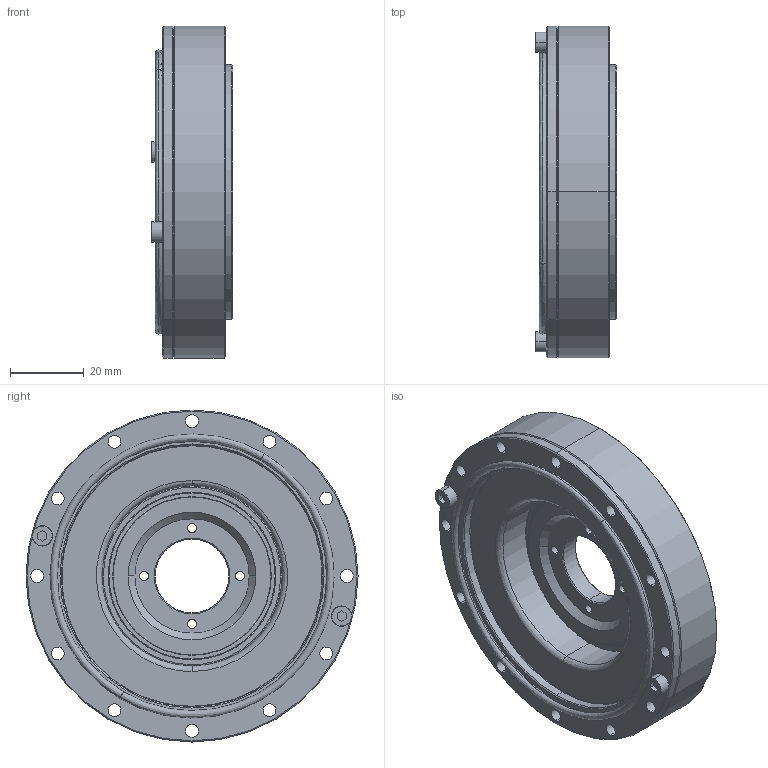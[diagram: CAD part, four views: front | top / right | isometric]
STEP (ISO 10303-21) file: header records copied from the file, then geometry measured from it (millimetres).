
FILE_DESCRIPTION (( 'STEP AP214' ), '1' );
FILE_NAME ('SHD-20-XXX-2SH.STEP', '2023-03-25T06:07:53', ( 'Admin' ), ( '' ), 'SwSTEP 2.0', 'SolidWorks 2018', '' );
FILE_SCHEMA (( 'AUTOMOTIVE_DESIGN' ));
Length unit declared in the file: millimetre
Products named in the file (38): SHD-20-XXX-SH_17; SHD-20-XXX-SH_34; SHD-20-XXX-SH_31; SHD-20-XXX-SH_35; SHD-20-XXX-SH_28; SHD-20-XXX-SH_27; SHD-20-XXX-SH_32; SHD-20-XXX-SH_30; SHD-20-XXX-SH_22; SHD-20-XXX-SH_7; SHD-20-XXX-SH_15; SHD-20-XXX-SH_10; SHD-20-XXX-SH_5; SHD-20-XXX-SH_36; SHD-20-XXX-SH_18; SHD-20-XXX-SH_9; SHD-20-XXX-SH_3; SHD-20-XXX-SH_20; SHD-20-XXX-SH_4; SHD-20-XXX-SH_16; SHD-20-XXX-SH_2; SHD-20-XXX-SH_26; SHD-20-XXX-SH_11; SHD-20-XXX-SH_23; SHD-20-XXX-SH_19; SHD-20-XXX-SH; SHD-20-XXX-SH_24; SHD-20-XXX-SH_14; SHD-20-XXX-2SH; SHD-20-XXX-SH_8; SHD-20-XXX-SH_25; SHD-20-XXX-SH_13; SHD-20-XXX-SH_37; SHD-20-XXX-SH_29; SHD-20-XXX-SH_33; SHD-20-XXX-SH_12; SHD-20-XXX-SH_6; SHD-20-XXX-SH_21
Assembly tree (37 placements, depth 2):
  SHD-20-XXX-2SH
    SHD-20-XXX-SH_3
    SHD-20-XXX-SH_36
    SHD-20-XXX-SH_31
    SHD-20-XXX-SH_27
    SHD-20-XXX-SH_35
    SHD-20-XXX-SH_20
    SHD-20-XXX-SH_16
    SHD-20-XXX-SH_14
    SHD-20-XXX-SH_10
    SHD-20-XXX-SH_9
    SHD-20-XXX-SH_17
    SHD-20-XXX-SH_37
    SHD-20-XXX-SH_5
    SHD-20-XXX-SH_33
    SHD-20-XXX-SH
    SHD-20-XXX-SH_11
    SHD-20-XXX-SH_15
    SHD-20-XXX-SH_29
    SHD-20-XXX-SH_25
    SHD-20-XXX-SH_23
    SHD-20-XXX-SH_2
    SHD-20-XXX-SH_4
    SHD-20-XXX-SH_12
    SHD-20-XXX-SH_34
    SHD-20-XXX-SH_26
    SHD-20-XXX-SH_22
    SHD-20-XXX-SH_24
    SHD-20-XXX-SH_28
    SHD-20-XXX-SH_8
    SHD-20-XXX-SH_30
    SHD-20-XXX-SH_19
    SHD-20-XXX-SH_21
    SHD-20-XXX-SH_7
    SHD-20-XXX-SH_18
    SHD-20-XXX-SH_32
    SHD-20-XXX-SH_6
    SHD-20-XXX-SH_13
Bounding box: 22 x 90 x 90 mm (x, y, z)
Volume: 71377.2 mm3; surface area: 60762.8 mm2
Topology: 37 solids, 37 shells, 499 faces, 1280 edges, 764 vertices
Faces by surface type: cylinder 228, plane 99, bspline 90, cone 82
Entity records: 18249 total; most frequent: CARTESIAN_POINT 4724, DIRECTION 2780, ORIENTED_EDGE 2320, AXIS2_PLACEMENT_3D 1195, EDGE_CURVE 1160, VERTEX_POINT 764, CIRCLE 746, EDGE_LOOP 610
